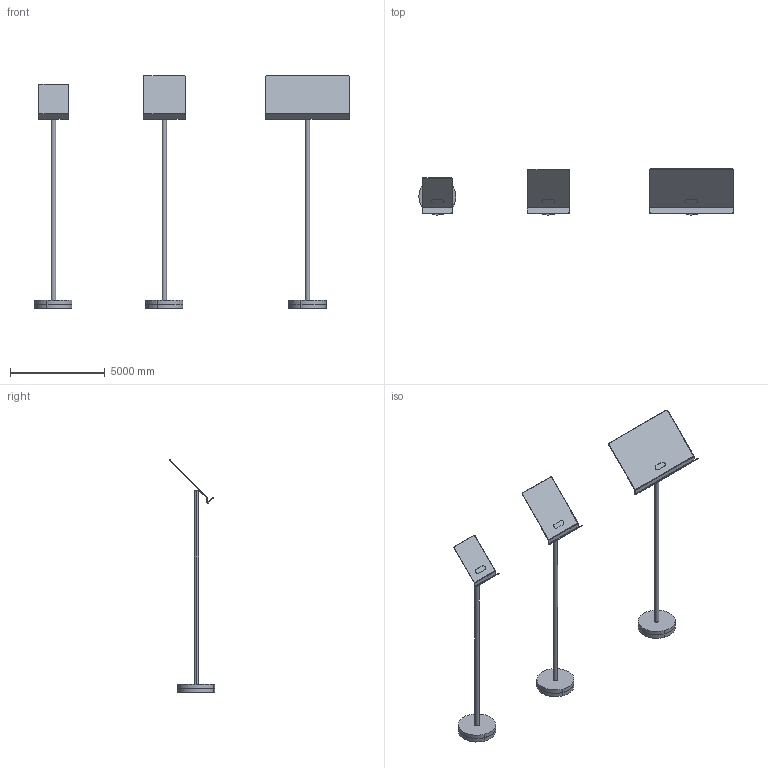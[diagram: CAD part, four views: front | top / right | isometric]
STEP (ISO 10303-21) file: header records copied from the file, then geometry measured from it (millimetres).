
FILE_DESCRIPTION(/* description */ (''),/* implementation_level */ '2;1');
FILE_NAME(/* name */ 'Bincan leggio',/* time_stamp */ '2025-07-29T09:13:46+02:00',/* author */ (''),/* organization */ (''),/* preprocessor_version */ 'ST-DEVELOPER v16.5',/* originating_system */ 'Rhino 7.37',/* authorisation */ '');
FILE_SCHEMA (('AUTOMOTIVE_DESIGN'));
Length unit declared in the file: centimetre
Products named in the file (1): Document
Bounding box: 16617.45 x 2418.71 x 12320.58 mm (x, y, z)
Volume: 4502691165.5 mm3; surface area: 122136727.7 mm2
Topology: 14 solids, 32 shells, 138 faces, 318 edges, 226 vertices
Faces by surface type: plane 75, cylinder 63
Entity records: 3969 total; most frequent: CARTESIAN_POINT 1453, ORIENTED_EDGE 594, EDGE_CURVE 318, VERTEX_POINT 226, B_SPLINE_CURVE_WITH_KNOTS 158, EDGE_LOOP 144, DIRECTION 144, AXIS2_PLACEMENT_3D 141
